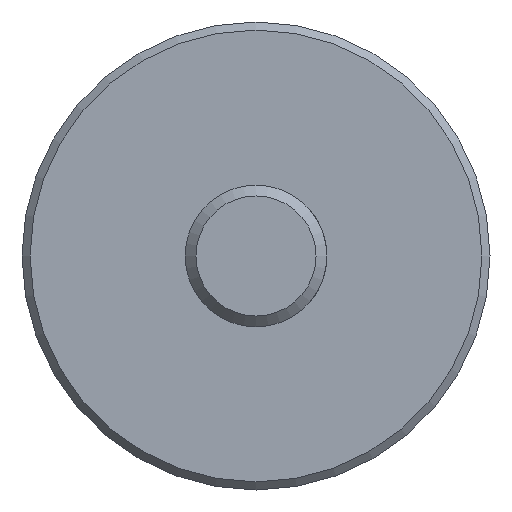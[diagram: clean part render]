
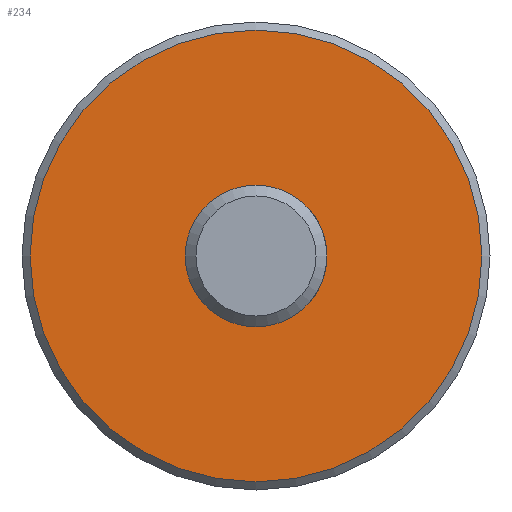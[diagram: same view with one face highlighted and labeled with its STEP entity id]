
A CAD part, front view. The second image highlights one B-rep face of the part: STEP entity #234.
In plain terms, the highlighted planar face has unit normal (0, -1, 0).
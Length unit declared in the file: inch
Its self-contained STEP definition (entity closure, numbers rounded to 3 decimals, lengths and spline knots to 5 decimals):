
#36 = DIRECTION ( 'NONE',  ( 0., 1., 0. ) ) ;
#47 = FACE_BOUND ( 'NONE', #379, .T. ) ;
#79 = CARTESIAN_POINT ( 'NONE',  ( 0.3937, 3.33, 0. ) ) ;
#88 = EDGE_CURVE ( 'NONE', #394, #394, #483, .T. ) ;
#105 = VERTEX_POINT ( 'NONE', #397 ) ;
#113 = EDGE_CURVE ( 'NONE', #105, #105, #349, .T. ) ;
#164 = DIRECTION ( 'NONE',  ( 0., 0., 1. ) ) ;
#173 = DIRECTION ( 'NONE',  ( 0., 1., 0. ) ) ;
#178 = AXIS2_PLACEMENT_3D ( 'NONE', #574, #528, #164 ) ;
#205 = CARTESIAN_POINT ( 'NONE',  ( 0., 3.33, 0. ) ) ;
#227 = AXIS2_PLACEMENT_3D ( 'NONE', #205, #36, #245 ) ;
#234 = ADVANCED_FACE ( 'NONE', ( #456, #47 ), #533, .F. ) ;
#245 = DIRECTION ( 'NONE',  ( 0., 0., 1. ) ) ;
#260 = DIRECTION ( 'NONE',  ( 0., 0., 1. ) ) ;
#268 = ORIENTED_EDGE ( 'NONE', *, *, #113, .T. ) ;
#340 = CARTESIAN_POINT ( 'NONE',  ( 0., 3.33, 1.255 ) ) ;
#349 = CIRCLE ( 'NONE', #178, 0.3937 ) ;
#379 = EDGE_LOOP ( 'NONE', ( #268 ) ) ;
#394 = VERTEX_POINT ( 'NONE', #340 ) ;
#397 = CARTESIAN_POINT ( 'NONE',  ( 0., 3.33, 0.3937 ) ) ;
#428 = EDGE_LOOP ( 'NONE', ( #472 ) ) ;
#455 = AXIS2_PLACEMENT_3D ( 'NONE', #79, #173, #260 ) ;
#456 = FACE_OUTER_BOUND ( 'NONE', #428, .T. ) ;
#472 = ORIENTED_EDGE ( 'NONE', *, *, #88, .F. ) ;
#483 = CIRCLE ( 'NONE', #227, 1.255 ) ;
#528 = DIRECTION ( 'NONE',  ( 0., 1., 0. ) ) ;
#533 = PLANE ( 'NONE',  #455 ) ;
#574 = CARTESIAN_POINT ( 'NONE',  ( 0., 3.33, 0. ) ) ;
